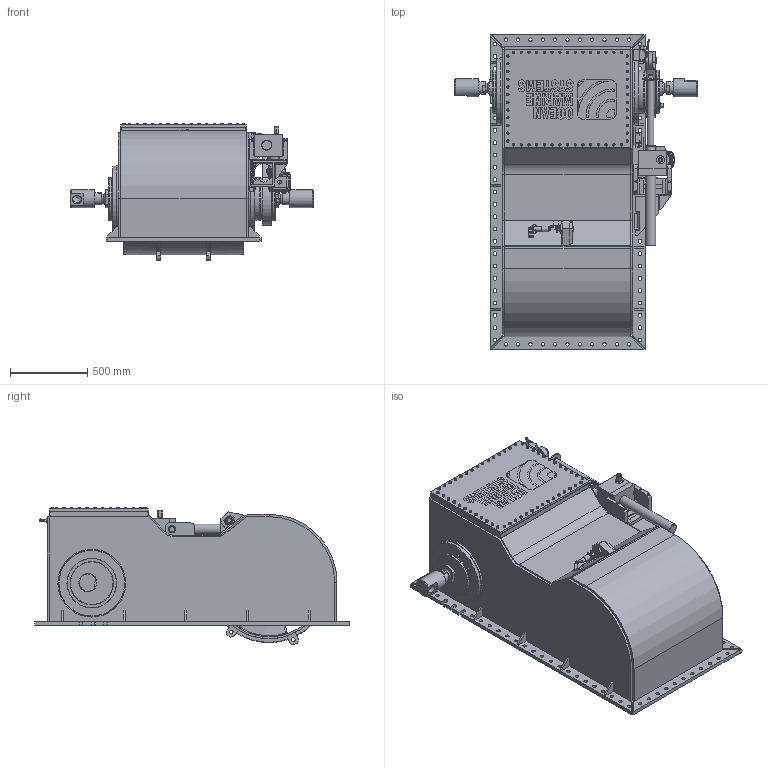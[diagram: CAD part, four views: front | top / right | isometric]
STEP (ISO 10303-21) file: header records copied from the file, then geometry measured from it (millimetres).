
FILE_DESCRIPTION(/* description */ (''),/* implementation_level */ '2;1');
FILE_NAME(/* name */ 'Q:\THRUSTERS\THRUSTER SALES & SUPPORT DOCS\THRUSTER Sales\H-S\H-0700-S\H-0700-S Retracted.stp',/* time_stamp */ '2021-01-26T12:25:04+00:00',/* author */ ('Barney.Webborn'),/* organization */ (''),/* preprocessor_version */ 'ST-DEVELOPER v17.2',/* originating_system */ 'Autodesk Inventor 2019',/* authorisation */ '');
FILE_SCHEMA (('AUTOMOTIVE_DESIGN { 1 0 10303 214 3 1 1 }'));
Length unit declared in the file: millimetre
Products named in the file (1): H-0700-S_Shrinkwrap_1
Bounding box: 1572 x 2040 x 892.86 mm (x, y, z)
Volume: 218322250.9 mm3; surface area: 24871188.9 mm2
Topology: 13 solids, 13 shells, 5103 faces, 13696 edges, 8942 vertices
Faces by surface type: plane 2373, bspline 1152, cylinder 988, cone 317, torus 247, sphere 26
Full cylindrical faces by diameter (mm): 3 x3, 7.2 x2, 8 x1, 10 x58, 12 x1, 15.6 x1, 15.8 x16, 16 x78, 17 x2, 17.5 x1, 20 x4, 23 x66, 24 x4, 24.25 x1, 24.441 x1, 24.5 x2, 24.962 x1, 24.98 x1, 25 x2, 25.5 x1, 26.25 x1, 26.441 x2, 28 x1, 29.425 x1, 30 x2, 30.5 x1, 31.42 x1, 32 x1, 33.304 x1, 34.7 x1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
Entity records: 263960 total; most frequent: CARTESIAN_POINT 137051, ORIENTED_EDGE 27188, DIRECTION 22858, EDGE_CURVE 13594, VERTEX_POINT 8943, AXIS2_PLACEMENT_3D 8164, LINE 6530, VECTOR 6530
